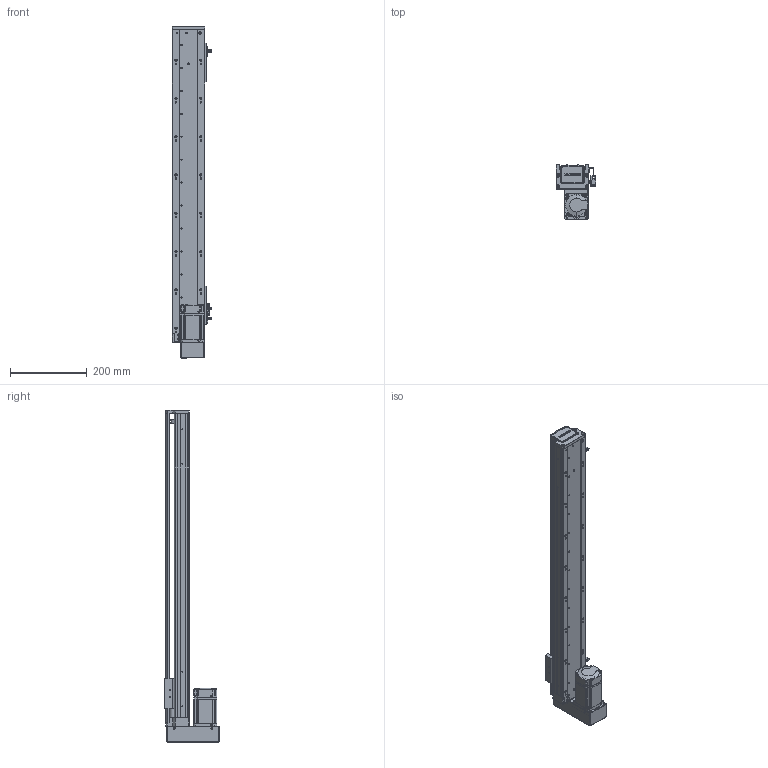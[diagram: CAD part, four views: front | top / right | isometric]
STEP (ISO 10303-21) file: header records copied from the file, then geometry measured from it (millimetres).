
FILE_DESCRIPTION (( 'STEP AP203' ), '1' );
FILE_NAME ('RY80-L1620-300-BK.SLDASM_650.step', '2021-02-20T07:10:53', ( '盈信电脑' ), ( '东莞市道滘镇水果街19号' ), 'SwSTEP 2.0', 'SolidWorks 2012', '' );
FILE_SCHEMA (( 'CONFIG_CONTROL_DESIGN' ));
Products named in the file (15): RY80-L1620-300-BK.SLDASM_650; RY80狟殏俋欶; 滅袉蝶18-24; RY80转接电机端支撑座; 1; RY80狟殏萇儂假蚾啣; 侂狟200W萇儂; 覜茼ん672; T倰羞; RY80俋离覜茼え; 滅袉蝶18-10; RY80-300蛌諉倰第奻裔啣-BK_650; RY80-300蛌諉倰第菁釱-BK_650; RY80臏賑輸; RY80綴裔啣
Assembly tree (17 placements, depth 3):
  RY80-L1620-300-BK.SLDASM_650
    RY80-300蛌諉倰第菁釱-BK_650
    RY80臏賑輸
    RY80-300蛌諉倰第奻裔啣-BK_650
    RY80綴裔啣
    滅袉蝶18-10
    T倰羞  x2
    覜茼ん672  x3
    RY80俋离覜茼え
    RY80转接电机端支撑座
    侂狟200W萇儂
      1
    RY80狟殏萇儂假蚾啣
    RY80狟殏俋欶
    滅袉蝶18-24
Bounding box: 103.7 x 144 x 867 mm (x, y, z)
Volume: 1677370.7 mm3; surface area: 661562 mm2
Topology: 16 solids, 16 shells, 2211 faces, 6113 edges, 3963 vertices
Faces by surface type: plane 1180, cylinder 833, cone 136, bspline 62
Entity records: 71065 total; most frequent: CARTESIAN_POINT 18592, ORIENTED_EDGE 10922, DIRECTION 10084, EDGE_CURVE 5461, VERTEX_POINT 3579, AXIS2_PLACEMENT_3D 3385, LINE 3314, VECTOR 3314
